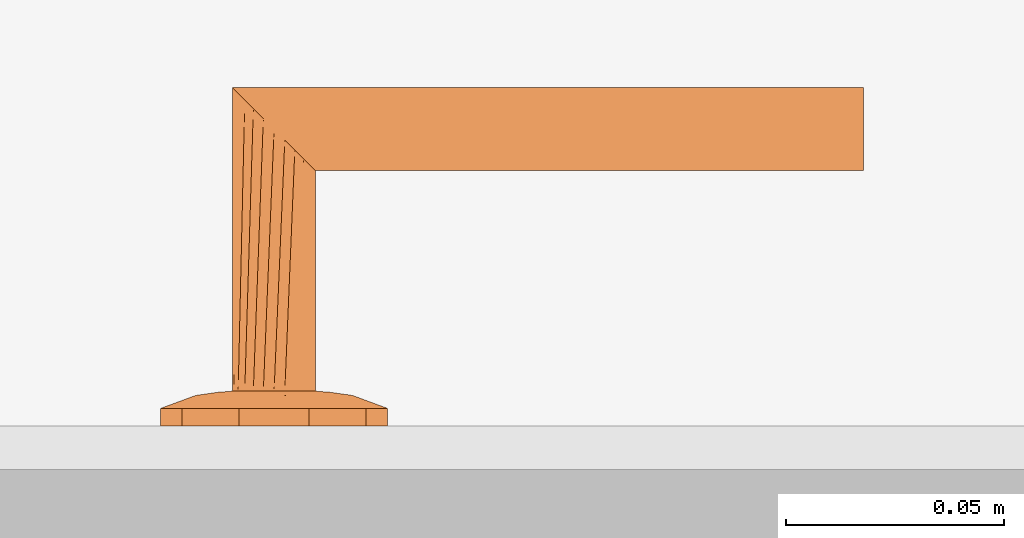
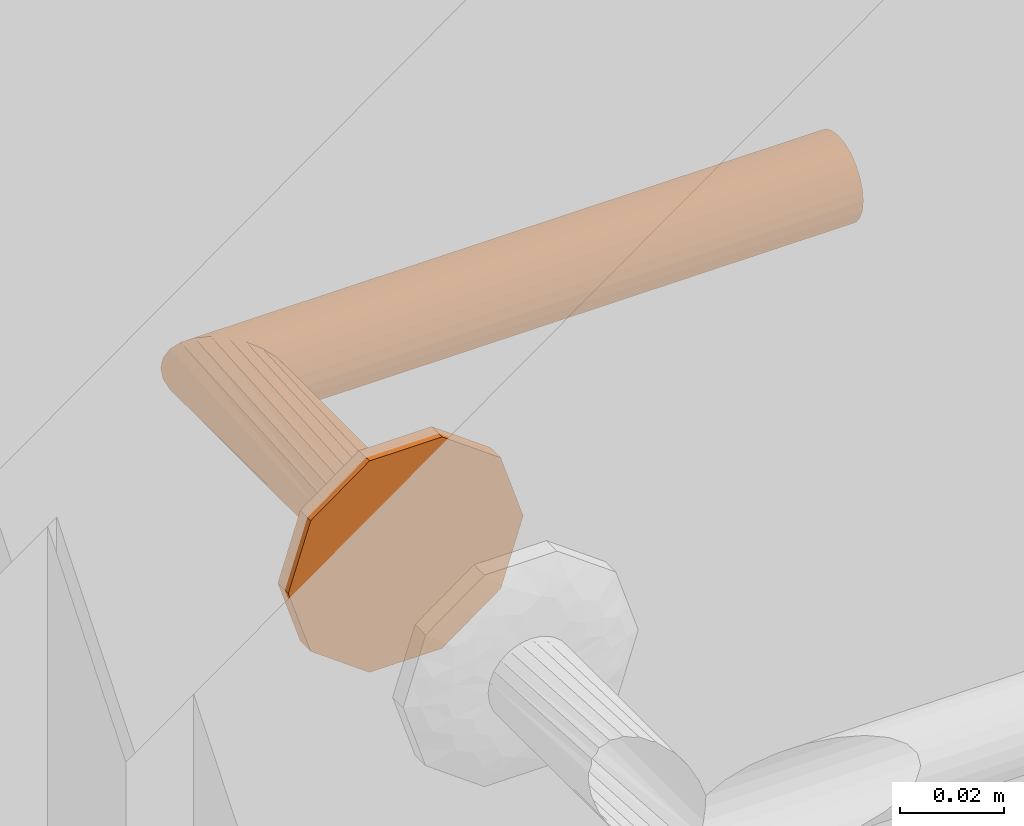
# One storey, part 38 of 55: 1 proxy.
"""IFC2X3 building model written with IfcOpenShell, lengths in millimetres."""

from ifc_helpers import new_model, entity, si_unit, converted_unit, direction, frame, origin, place, context, subcontext, project, spatial, faceted_brep, source, transform, mapped, material, type_object, type_shapes, element, save


model = new_model("IFC2X3")

# Units and contexts
model_context = context("Model", 3, precision=0.01, world=origin(), true_north=direction((6.123233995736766e-17, 1.0)))
plan_context = context("Plan", 3, precision=0.01, world=origin(), true_north=direction((6.123233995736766e-17, 1.0)))
body_context = subcontext(model_context, "Body", "Model", "MODEL_VIEW")
ifc_project = project(units=[si_unit("LENGTHUNIT", "METRE", prefix="MILLI"), converted_unit("PLANEANGLEUNIT", "DEGREE", entity("IfcPlaneAngleMeasure", 0.017453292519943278), si_unit("PLANEANGLEUNIT", "RADIAN"), dimensions=[0, 0, 0, 0, 0, 0, 0]), si_unit("AREAUNIT", "SQUARE_METRE")], contexts=[model_context, plan_context])

# Site, building, storey, space
site_placement = place(None, origin())
site = spatial("IfcSite", under=ifc_project, at=site_placement, Name="Default", CompositionType="ELEMENT")
building_placement = place(site_placement, origin())
building = spatial("IfcBuilding", under=site, at=building_placement, CompositionType="ELEMENT")
storey_placement = place(building_placement, origin())
storey = spatial("IfcBuildingStorey", under=building, at=storey_placement, Name="1K", CompositionType="ELEMENT", Elevation=0.0)
space_placement = place(storey_placement, origin())
space = spatial("IfcSpace", under=storey, at=space_placement, Name="1-0.5", CompositionType="ELEMENT", InteriorOrExteriorSpace="INTERNAL")

# Proxy
ifc_material = material(Name="<Unnamed>")
building_element_proxy_type = type_object("IfcBuildingElementProxyType", Name="Door-handle_Lever_ABLOY_INOXI_3-19ss-002_RT:Default", PredefinedType="NOTDEFINED", material=ifc_material)
shared_shape = source(origin(), body_context, "Body", "Brep", [
    faceted_brep([(0.0, 0.0, 0.0), (21.034441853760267, -15.282416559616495, 0.0), (14.534441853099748, -20.00494299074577, 0.0), (8.034441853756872, -24.72746942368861, 0.0), (0.0, -24.72746942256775, 0.0), (23.51722092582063, -7.6412082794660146, 0.0), (26.0, 0.0, 0.0), (-8.034441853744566, -24.727469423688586, 0.0), (-14.534441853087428, -20.00494299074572, 0.0), (-21.03444185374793, -15.282416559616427, 0.0), (-23.517220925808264, -7.641208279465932, 0.0), (-26.0, 0.0, 0.0), (-23.517220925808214, 7.641208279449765, 0.0), (23.517220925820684, 7.641208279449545, 0.0), (21.034441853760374, 15.282416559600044, 0.0), (14.53444185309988, 20.00494299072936, 0.0), (8.034441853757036, 24.72746942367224, 0.0), (-21.034441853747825, 15.282416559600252, 0.0), (-14.53444185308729, 20.004942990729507, 0.0), (-8.0344418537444, 24.72746942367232, 0.0), (0.0, 24.72746942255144, 0.0), (0.0, 0.0, 8.0), (4.7500000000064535, -8.227241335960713, 8.0), (5.937500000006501, -6.170431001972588, 8.0), (7.125000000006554, -4.113620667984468, 8.0), (8.312500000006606, -2.0568103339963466, 8.0), (9.500000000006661, 0.0, 8.0), (8.312500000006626, 2.056810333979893, 8.0), (2.3750000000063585, -8.227241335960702, 8.0), (0.0, -8.227241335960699, 8.0), (-2.3749999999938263, -8.227241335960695, 8.0), (-4.749999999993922, -8.227241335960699, 8.0), (-5.937499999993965, -6.170431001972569, 8.0), (-7.124999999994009, -4.113620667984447, 8.0), (-8.312499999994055, -2.056810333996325, 8.0), (-9.499999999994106, 0.0, 8.0), (7.125000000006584, 4.113620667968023, 8.0), (5.937500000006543, 6.170431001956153, 8.0), (4.750000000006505, 8.227241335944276, 8.0), (2.3750000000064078, 8.22724133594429, 8.0), (-8.31249999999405, 2.0568103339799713, 8.0), (-7.12499999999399, 4.113620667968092, 8.0), (-5.9374999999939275, 6.170431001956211, 8.0), (-4.74999999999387, 8.227241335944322, 8.0), (0.0, 8.227241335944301, 8.0), (-2.374999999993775, 8.227241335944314, 8.0), (-22.488765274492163, -10.806469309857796, 4.030771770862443), (-16.663919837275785, -7.932665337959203, 6.877259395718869), (-20.643071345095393, -6.292822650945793, 5.929480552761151), (-12.50457926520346, -5.179566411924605, 7.774932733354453), (-16.764060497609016, -3.820257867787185, 7.1747985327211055), (-9.071726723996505, -10.311606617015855, 7.7520782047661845), (-11.963426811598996, -8.625290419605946, 7.618343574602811), (-11.979136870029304, -13.678312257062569, 6.945778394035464), (5.7585542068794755, -20.96753300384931, 5.871476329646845), (0.0, -24.72746942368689, 4.030771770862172), (8.03444185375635, -24.727469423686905, 4.030771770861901), (16.66391982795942, -7.932665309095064, 6.877259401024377), (22.488765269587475, -10.806469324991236, 4.03077177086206), (20.64307133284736, -6.29282258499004, 5.929480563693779), (14.534441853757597, -20.004942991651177, 4.030771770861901), (9.499431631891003, -18.64368355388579, 6.154325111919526), (-15.783149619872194, -11.991003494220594, 6.50080018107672), (-21.034441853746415, -15.282416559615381, 4.030771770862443), (-14.53444185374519, -20.00494299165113, 4.030771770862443), (-23.012042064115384, 0.0, 5.135401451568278), (-23.943088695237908, -6.330522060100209, 4.030771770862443), (11.96342678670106, -8.62529049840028, 7.618343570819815), (12.504579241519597, -5.179566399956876, 7.774932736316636), (16.764060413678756, -3.8202578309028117, 7.17479855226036), (15.783149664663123, -11.991003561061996, 6.50080015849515), (17.985351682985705, 0.0, 6.993737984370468), (23.012042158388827, 0.0, 5.135401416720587), (8.661516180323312, -10.478936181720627, 7.768126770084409), (-8.03444185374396, -24.727469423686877, 4.030771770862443), (-3.3573143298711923, -21.197247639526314, 5.971427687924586), (-9.941915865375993, -17.061976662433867, 6.522757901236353), (-5.973257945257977, -16.430139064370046, 7.110979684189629), (-7.711266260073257, -12.760344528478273, 7.594456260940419), (11.979136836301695, -13.678312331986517, 6.945778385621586), (7.511307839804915, -13.358932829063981, 7.529187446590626), (5.953298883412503, -16.50608604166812, 7.096344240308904), (-1.5654593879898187, -15.307443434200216, 7.519134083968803), (-7.784980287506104, -20.476295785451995, 5.812837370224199), (2.8135289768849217, -17.76392260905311, 6.993737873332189), (-17.98535168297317, 0.0, 6.993737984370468), (-26.0, 0.0, 4.030771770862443), (-23.51722092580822, -7.641208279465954, 4.030771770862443), (23.943088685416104, -6.33052209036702, 4.030771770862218), (24.308823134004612, -5.204907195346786, 4.030771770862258), (26.0, 0.0, 4.030771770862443), (21.03444185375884, -15.282416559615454, 4.030771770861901), (22.617646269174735, -10.40981439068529, 4.030771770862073), (22.488765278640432, 10.806469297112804, 4.030771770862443), (16.66391984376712, 7.932665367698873, 6.877259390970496), (20.643071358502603, 6.292822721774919, 5.929480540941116), (12.504579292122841, 5.179566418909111, 7.774932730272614), (16.764060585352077, 3.8202579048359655, 7.174798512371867), (9.07172672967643, 10.31160659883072, 7.752078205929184), (11.963426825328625, 8.62529034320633, 7.618343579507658), (11.979136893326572, 13.67831220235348, 6.9457784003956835), (-5.758554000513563, 20.96753314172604, 5.8714763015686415), (0.0, 24.72746942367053, 4.030771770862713), (-8.03444185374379, 24.72746942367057, 4.030771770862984), (-16.663919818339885, 7.932665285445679, 6.877259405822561), (-22.48876526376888, 10.806469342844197, 4.030771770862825), (-20.643071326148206, 6.2928225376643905, 5.929480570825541), (-14.534441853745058, 20.004942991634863, 4.030771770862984), (-9.499431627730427, 18.643683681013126, 6.154325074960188), (15.783149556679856, 11.991003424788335, 6.5008002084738), (21.03444185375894, 15.282416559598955, 4.030771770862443), (14.534441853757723, 20.004942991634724, 4.030771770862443), (23.943088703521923, 6.330522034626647, 4.030771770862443), (-11.96342675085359, 8.625290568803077, 7.618343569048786), (-12.504579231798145, 5.179566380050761, 7.77493273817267), (-16.764060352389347, 3.820257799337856, 7.174798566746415), (-15.78314967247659, 11.991003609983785, 6.500800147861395), (-8.661516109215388, 10.478936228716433, 7.768126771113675), (8.034441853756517, 24.727469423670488, 4.030771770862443), (3.3573144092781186, 21.197247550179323, 5.971427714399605), (9.941915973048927, 17.061976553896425, 6.522757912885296), (5.9732581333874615, 16.430139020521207, 7.110979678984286), (7.711266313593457, 12.760344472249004, 7.5944562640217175), (-11.979136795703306, 13.678312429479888, 6.945778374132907), (-7.511307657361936, 13.358932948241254, 7.5291874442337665), (-5.9532988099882, 16.50608628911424, 7.096344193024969), (1.5654596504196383, 15.3074431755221, 7.519134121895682), (7.784980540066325, 20.476295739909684, 5.812837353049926), (-2.81352881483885, 17.76392263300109, 6.993737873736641), (23.51722092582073, 7.6412082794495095, 4.030771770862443), (-23.94308867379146, 6.330522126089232, 4.030771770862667), (-24.308823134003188, 5.20490719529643, 4.030771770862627), (-21.034441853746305, 15.282416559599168, 4.030771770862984), (-22.617646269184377, 10.409814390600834, 4.0307717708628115)], [[[0, 1, 2]], [[0, 2, 3]], [[0, 3, 4]], [[0, 5, 1]], [[0, 6, 5]], [[0, 4, 7]], [[0, 7, 8]], [[0, 8, 9]], [[0, 9, 10]], [[0, 10, 11]], [[0, 11, 12]], [[0, 13, 6]], [[0, 14, 13]], [[0, 15, 14]], [[0, 16, 15]], [[0, 12, 17]], [[0, 17, 18]], [[0, 18, 19]], [[0, 19, 20]], [[0, 20, 16]], [[21, 22, 23]], [[21, 23, 24]], [[21, 24, 25]], [[21, 25, 26]], [[21, 26, 27]], [[21, 28, 22]], [[21, 29, 28]], [[21, 30, 29]], [[21, 31, 30]], [[21, 32, 31]], [[21, 33, 32]], [[21, 34, 33]], [[21, 35, 34]], [[21, 27, 36]], [[21, 36, 37]], [[21, 37, 38]], [[21, 38, 39]], [[21, 40, 35]], [[21, 41, 40]], [[21, 42, 41]], [[21, 43, 42]], [[21, 39, 44]], [[21, 44, 45]], [[21, 45, 43]], [[46, 47, 48]], [[47, 49, 50]], [[49, 33, 34]], [[51, 52, 53]], [[49, 52, 33]], [[48, 47, 50]], [[54, 55, 56]], [[57, 58, 59]], [[56, 60, 61]], [[62, 63, 64]], [[65, 66, 48]], [[67, 57, 68]], [[68, 69, 25]], [[57, 67, 70]], [[69, 26, 25]], [[62, 53, 52]], [[71, 69, 72]], [[67, 23, 73]], [[74, 55, 75]], [[76, 77, 78]], [[79, 60, 70]], [[69, 59, 72]], [[80, 81, 61]], [[77, 30, 78]], [[82, 30, 77]], [[28, 80, 22]], [[77, 83, 75]], [[75, 82, 77]], [[55, 84, 75]], [[85, 50, 35]], [[24, 68, 25]], [[82, 84, 29]], [[84, 82, 75]], [[31, 78, 30]], [[82, 29, 30]], [[34, 35, 50]], [[52, 49, 47]], [[62, 52, 47]], [[34, 50, 49]], [[53, 78, 51]], [[32, 33, 52]], [[85, 65, 50]], [[66, 65, 86]], [[67, 68, 24]], [[77, 76, 83]], [[65, 48, 50]], [[63, 62, 46]], [[48, 66, 87, 46]], [[62, 47, 46]], [[69, 68, 57]], [[80, 73, 22]], [[70, 67, 79]], [[67, 24, 23]], [[72, 88, 89, 90]], [[69, 71, 26]], [[59, 69, 57]], [[61, 60, 79]], [[62, 64, 53]], [[91, 58, 70]], [[72, 59, 88]], [[57, 70, 58]], [[59, 58, 92]], [[80, 61, 79]], [[91, 70, 60]], [[61, 81, 54]], [[73, 80, 79]], [[28, 84, 81]], [[67, 73, 79]], [[29, 84, 28]], [[22, 73, 23]], [[51, 31, 32]], [[76, 78, 53]], [[53, 64, 76]], [[83, 64, 74]], [[64, 83, 76]], [[75, 83, 74]], [[31, 51, 78]], [[52, 51, 32]], [[28, 81, 80]], [[54, 81, 84]], [[55, 54, 84]], [[61, 54, 56]], [[93, 94, 95]], [[94, 96, 97]], [[96, 36, 27]], [[98, 99, 100]], [[96, 99, 36]], [[95, 94, 97]], [[101, 102, 103]], [[104, 105, 106]], [[103, 107, 108]], [[109, 110, 111]], [[72, 112, 95]], [[113, 104, 114]], [[114, 115, 40]], [[104, 113, 116]], [[115, 35, 40]], [[109, 100, 99]], [[85, 115, 65]], [[113, 42, 117]], [[118, 102, 119]], [[120, 121, 122]], [[123, 107, 116]], [[115, 106, 65]], [[124, 125, 108]], [[121, 39, 122]], [[126, 39, 121]], [[45, 124, 43]], [[121, 127, 119]], [[119, 126, 121]], [[102, 128, 119]], [[71, 97, 26]], [[41, 114, 40]], [[126, 128, 44]], [[128, 126, 119]], [[38, 122, 39]], [[126, 44, 39]], [[27, 26, 97]], [[99, 96, 94]], [[109, 99, 94]], [[27, 97, 96]], [[100, 122, 98]], [[37, 36, 99]], [[71, 72, 97]], [[112, 72, 90]], [[113, 114, 41]], [[121, 120, 127]], [[72, 95, 97]], [[110, 109, 93]], [[95, 112, 129, 93]], [[109, 94, 93]], [[115, 114, 104]], [[124, 117, 43]], [[116, 113, 123]], [[113, 41, 42]], [[65, 130, 131, 86]], [[115, 85, 35]], [[106, 115, 104]], [[108, 107, 123]], [[109, 111, 100]], [[132, 105, 116]], [[65, 106, 130]], [[104, 116, 105]], [[106, 105, 133]], [[124, 108, 123]], [[132, 116, 107]], [[108, 125, 101]], [[117, 124, 123]], [[45, 128, 125]], [[113, 117, 123]], [[44, 128, 45]], [[43, 117, 42]], [[98, 38, 37]], [[120, 122, 100]], [[100, 111, 120]], [[127, 111, 118]], [[111, 127, 120]], [[119, 127, 118]], [[38, 98, 122]], [[99, 98, 37]], [[45, 125, 124]], [[101, 125, 128]], [[102, 101, 128]], [[108, 101, 103]], [[7, 74, 64, 63, 9, 8]], [[10, 9, 63, 46, 87, 66, 86, 11]], [[6, 90, 89, 88, 92, 1, 5]], [[1, 58, 91]], [[74, 7, 4, 3, 56, 55]], [[60, 56, 3, 2, 1, 91]], [[1, 92, 58]], [[14, 110, 93, 129, 112, 90, 6, 13]], [[111, 110, 14, 15, 16, 118]], [[11, 86, 131, 130, 133, 17, 12]], [[17, 105, 132]], [[118, 16, 20, 19, 103, 102]], [[107, 103, 19, 18, 17, 132]], [[17, 133, 105]], [[59, 92, 88]], [[106, 133, 130]]]),
    faceted_brep([(4.7499999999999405, -8.22724133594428, 8.0), (2.4587809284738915, -9.176295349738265, 8.0), (0.0, -9.499999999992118, 8.0), (-2.4587809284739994, -9.176295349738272, 8.0), (-4.7500000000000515, -8.227241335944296, 8.0), (-6.717514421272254, -6.717514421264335, 8.0), (-8.227241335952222, -4.74999999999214, 8.0), (-9.176295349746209, -2.4587809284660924, 8.0), (-9.500000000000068, 0.0, 8.0), (-9.176295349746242, 2.458780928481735, 8.0), (-8.227241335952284, 4.750000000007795, 8.0), (-6.717514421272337, 6.717514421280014, 8.0), (-4.750000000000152, 8.227241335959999, 8.0), (-2.4587809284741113, 9.176295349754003, 8.0), (0.0, 9.500000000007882, 8.0), (2.4587809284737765, 9.176295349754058, 8.0), (4.7499999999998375, 8.227241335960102, 8.0), (6.717514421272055, 6.717514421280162, 8.0), (8.22724133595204, 4.75000000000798, 8.0), (9.17629534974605, 2.458780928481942, 8.0), (9.499999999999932, 0.0, 8.0), (9.17629534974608, -2.458780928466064, 8.0), (8.227241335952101, -4.749999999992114, 8.0), (6.717514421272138, -6.7175144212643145, 8.0), (-8.227241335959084, 4.7499999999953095, 59.772758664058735), (-6.717514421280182, 6.7175144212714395, 61.282485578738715), (-9.176295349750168, 2.458780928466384, 58.82370465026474), (-4.750000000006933, 8.227241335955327, 63.25000000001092), (-2.4587809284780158, 9.176295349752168, 65.54121907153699), (-9.500000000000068, 0.0, 58.50000000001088), (0.0, 9.50000000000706, 68.0), (4.750000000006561, 8.227241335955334, 72.75000000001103), (2.4587809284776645, 9.17629534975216, 70.45878092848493), (6.717514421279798, 6.7175144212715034, 74.71751442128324), (8.22724133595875, 4.749999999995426, 76.22724133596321), (9.17629534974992, 2.458780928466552, 77.17629534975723), (9.499999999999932, 0.0, 77.50000000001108), (9.176295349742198, -2.4587809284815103, 77.1762953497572), (8.227241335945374, -4.750000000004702, 76.22724133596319), (6.7175144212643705, -6.717514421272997, 74.7175144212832), (4.749999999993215, -8.227241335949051, 72.75000000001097), (2.4587809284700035, -9.17629534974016, 70.45878092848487), (0.0, -9.49999999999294, 68.0), (-2.4587809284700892, -9.176295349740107, 65.54121907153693), (-4.749999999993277, -8.227241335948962, 63.250000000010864), (-6.717514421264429, -6.717514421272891, 61.282485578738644), (-9.176295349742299, -2.458780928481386, 58.8237046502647), (-8.227241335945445, -4.750000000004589, 59.77275866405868), (-135.0, -9.176295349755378, 70.4587809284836), (-135.0, -8.227241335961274, 72.75000000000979), (-135.0, -6.717514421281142, 74.71751442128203), (-135.0, -4.750000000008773, 76.22724133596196), (-135.0, -2.4587809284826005, 77.17629534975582), (-135.0, 0.0, 77.5000000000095), (-135.0, 2.4587809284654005, 77.17629534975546), (-135.0, 4.749999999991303, 76.22724133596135), (-135.0, 6.717514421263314, 74.71751442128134), (-135.0, 8.227241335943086, 72.75000000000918), (-135.0, 9.17629534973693, 70.45878092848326), (-135.0, 9.499999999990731, 68.0), (-135.0, 9.17629534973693, 65.54121907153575), (-135.0, 8.227241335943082, 63.250000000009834), (-135.0, 6.717514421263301, 61.28248557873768), (-135.0, 4.749999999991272, 59.772758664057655), (-135.0, 2.458780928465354, 58.823704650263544), (-135.0, 0.0, 58.50000000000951), (-135.0, -2.458780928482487, 58.82370465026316), (-135.0, -4.750000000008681, 59.772758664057), (-135.0, -6.7175144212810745, 61.28248557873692), (-135.0, -8.227241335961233, 63.25000000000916), (-135.0, -9.176295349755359, 65.54121907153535), (-135.0, -9.500000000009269, 68.0)], [[[0, 1, 2, 3, 4, 5, 6, 7, 8, 9, 10, 11, 12, 13, 14, 15, 16, 17, 18, 19, 20, 21, 22, 23]], [[24, 25, 11, 10]], [[26, 24, 10, 9]], [[14, 27, 28]], [[13, 27, 14]], [[25, 27, 13]], [[29, 26, 9, 8]], [[12, 11, 25]], [[25, 13, 12]], [[28, 30, 15]], [[31, 17, 32]], [[33, 18, 31]], [[19, 34, 35]], [[33, 34, 19]], [[20, 19, 35, 36]], [[16, 15, 30]], [[14, 28, 15]], [[19, 18, 33]], [[17, 31, 18]], [[17, 16, 32]], [[30, 32, 16]], [[20, 36, 37, 21]], [[38, 21, 37]], [[22, 39, 40]], [[38, 39, 21]], [[23, 40, 41]], [[39, 22, 21]], [[1, 42, 43]], [[42, 1, 0]], [[23, 41, 0]], [[23, 22, 40]], [[41, 42, 0]], [[44, 45, 3]], [[43, 44, 2]], [[46, 29, 8, 7]], [[47, 46, 7, 6]], [[45, 47, 6, 5]], [[45, 4, 3]], [[3, 2, 44]], [[5, 4, 45]], [[43, 2, 1]], [[48, 49, 50, 51, 52, 53, 54, 55, 56, 57, 58, 59, 60, 61, 62, 63, 64, 65, 66, 67, 68, 69, 70, 71]], [[64, 63, 24, 26]], [[65, 64, 26, 29]], [[61, 60, 28, 27]], [[62, 61, 27, 25]], [[63, 62, 25, 24]], [[59, 30, 28, 60]], [[57, 56, 33, 31]], [[58, 57, 31, 32]], [[54, 53, 36, 35]], [[55, 54, 35, 34]], [[56, 55, 34, 33]], [[32, 30, 59, 58]], [[52, 51, 38, 37]], [[53, 52, 37, 36]], [[49, 48, 41, 40]], [[50, 49, 40, 39]], [[51, 50, 39, 38]], [[42, 41, 48, 71]], [[69, 68, 45, 44]], [[70, 69, 44, 43]], [[66, 65, 29, 46]], [[67, 66, 46, 47]], [[68, 67, 47, 45]], [[42, 71, 70, 43]]]),
])
type_shapes(building_element_proxy_type, [shared_shape])
proxy_placement = place(space_placement, frame((10954.995060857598, 3109.9999594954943, 1000.0), z_axis=(0.0, 1.0, 0.0), x_axis=(-1.0, 0.0, 0.0)))
element("IfcBuildingElementProxy", 1, at=proxy_placement, inside=space, type_object=building_element_proxy_type, material=ifc_material, Name="Door-handle_Lever_ABLOY_INOXI_3-19ss-002_RT:Default", ObjectType="Door-handle_Lever_ABLOY_INOXI_3-19ss-002_RT:Default", context=body_context, shape_type="MappedRepresentation", body=[
    mapped(shared_shape, transform((0.0, 0.0, 0.0), scale=1.0)),
])

save(model, "model.ifc")
